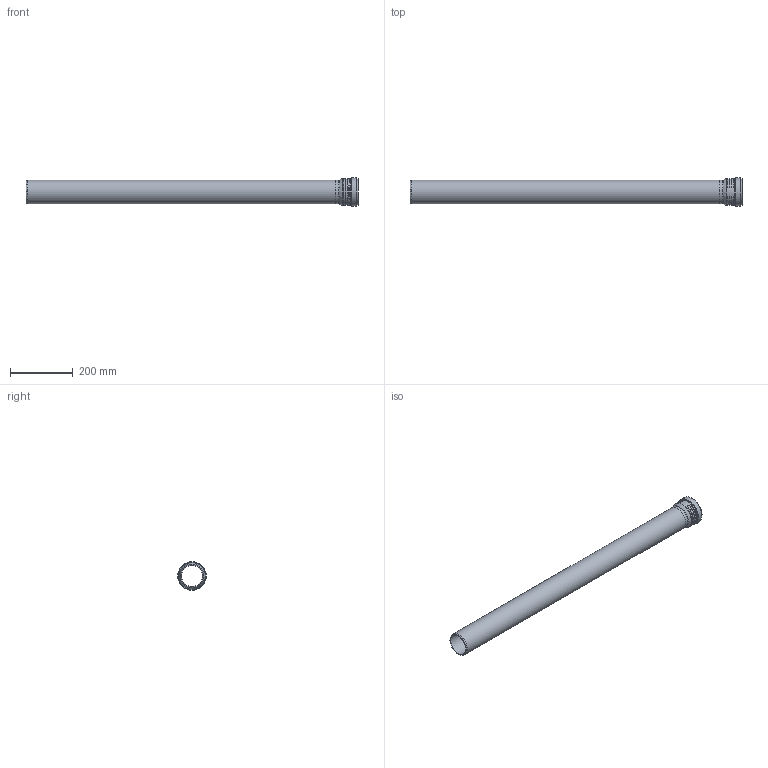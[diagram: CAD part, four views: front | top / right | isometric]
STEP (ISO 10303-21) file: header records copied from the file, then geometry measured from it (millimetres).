
FILE_DESCRIPTION(/* description */ (''),/* implementation_level */ '2;1');
FILE_NAME(/* name */ 'H:\Geberit-Teile\Export\PP_Rohr\stp\393304.stp',/* time_stamp */ '2017-02-13T16:06:20+01:00',/* author */ ('seihe2'),/* organization */ (''),/* preprocessor_version */ 'ST-DEVELOPER v15.2',/* originating_system */ 'Autodesk Inventor 2014',/* authorisation */ '');
FILE_SCHEMA (('AUTOMOTIVE_DESIGN { 1 0 10303 214 3 1 1 }'));
Length unit declared in the file: millimetre
Products named in the file (1): 393304
Bounding box: 1055.7 x 91 x 91 mm (x, y, z)
Volume: 917202 mm3; surface area: 491055.9 mm2
Topology: 2 solids, 2 shells, 38 faces, 82 edges, 57 vertices
Faces by surface type: torus 16, cylinder 10, plane 8, cone 2, bspline 2
Full cylindrical faces by diameter (mm): 67.6 x2, 75.2 x2, 76 x1, 77.6 x1, 82.8 x1, 84.4 x1, 84.8 x1, 91 x1
Entity records: 2151 total; most frequent: CARTESIAN_POINT 1359, DIRECTION 132, ORIENTED_EDGE 130, EDGE_LOOP 68, AXIS2_PLACEMENT_3D 66, EDGE_CURVE 65, VERTEX_POINT 57, STYLED_ITEM 40
